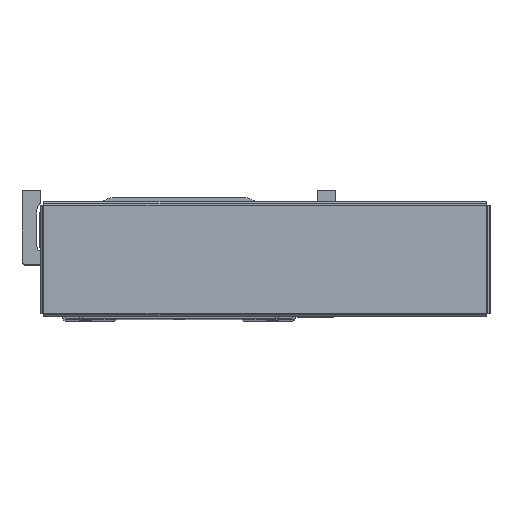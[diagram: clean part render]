
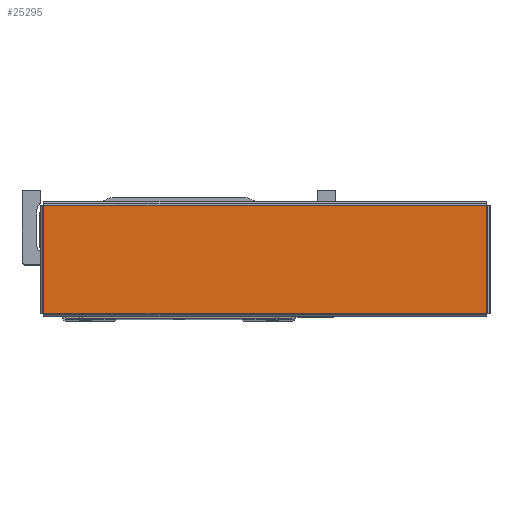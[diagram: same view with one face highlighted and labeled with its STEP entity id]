
A CAD part, top view. The second image highlights one B-rep face of the part: STEP entity #25295.
In plain terms, the highlighted planar face has unit normal (0, 0, 1) as drawn and (0, -1, 0) by its records, which use the part's own axes.
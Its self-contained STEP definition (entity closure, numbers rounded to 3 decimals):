
#8767 = FACE_OUTER_BOUND ( 'NONE', #25560, .T. ) ;
#10237 = AXIS2_PLACEMENT_3D ( 'NONE', #11778, #11780, #11776 ) ;
#11736 = PLANE ( 'NONE',  #10237 ) ;
#11776 = DIRECTION ( 'NONE',  ( 0., 0., 1. ) ) ;
#11778 = CARTESIAN_POINT ( 'NONE',  ( 0., -1.2, 0. ) ) ;
#11780 = DIRECTION ( 'NONE',  ( 0., 1., 0. ) ) ;
#14478 = CARTESIAN_POINT ( 'NONE',  ( 128.363, -1.2, 31.363 ) ) ;
#14486 = CARTESIAN_POINT ( 'NONE',  ( -128.363, -1.2, 31.363 ) ) ;
#14492 = CARTESIAN_POINT ( 'NONE',  ( -128.363, -1.2, -31.363 ) ) ;
#14499 = CARTESIAN_POINT ( 'NONE',  ( 128.363, -1.2, -31.363 ) ) ;
#23229 = VECTOR ( 'NONE', #42441, 1000. ) ;
#23309 = LINE ( 'NONE', #42483, #23229 ) ;
#23311 = VECTOR ( 'NONE', #42928, 1000. ) ;
#23324 = LINE ( 'NONE', #42908, #23340 ) ;
#23327 = VECTOR ( 'NONE', #42901, 1000. ) ;
#23340 = VECTOR ( 'NONE', #42870, 1000. ) ;
#23373 = LINE ( 'NONE', #42834, #23327 ) ;
#23378 = LINE ( 'NONE', #42860, #23311 ) ;
#25295 = ADVANCED_FACE ( 'NONE', ( #8767 ), #11736, .F. ) ;
#25560 = EDGE_LOOP ( 'NONE', ( #26685, #26737, #26694, #26731 ) ) ;
#26645 = VERTEX_POINT ( 'NONE', #14478 ) ;
#26648 = VERTEX_POINT ( 'NONE', #14486 ) ;
#26681 = VERTEX_POINT ( 'NONE', #14492 ) ;
#26682 = VERTEX_POINT ( 'NONE', #14499 ) ;
#26685 = ORIENTED_EDGE ( 'NONE', *, *, #31572, .T. ) ;
#26694 = ORIENTED_EDGE ( 'NONE', *, *, #31522, .T. ) ;
#26731 = ORIENTED_EDGE ( 'NONE', *, *, #31574, .T. ) ;
#26737 = ORIENTED_EDGE ( 'NONE', *, *, #31577, .T. ) ;
#31522 = EDGE_CURVE ( 'NONE', #26681, #26682, #23309, .T. ) ;
#31572 = EDGE_CURVE ( 'NONE', #26645, #26648, #23324, .T. ) ;
#31574 = EDGE_CURVE ( 'NONE', #26682, #26645, #23373, .T. ) ;
#31577 = EDGE_CURVE ( 'NONE', #26648, #26681, #23378, .T. ) ;
#42441 = DIRECTION ( 'NONE',  ( 1., 0., 0. ) ) ;
#42483 = CARTESIAN_POINT ( 'NONE',  ( -128.393, -1.2, -31.363 ) ) ;
#42834 = CARTESIAN_POINT ( 'NONE',  ( 128.363, -1.2, -31.393 ) ) ;
#42860 = CARTESIAN_POINT ( 'NONE',  ( -128.363, -1.2, 31.393 ) ) ;
#42870 = DIRECTION ( 'NONE',  ( -1., 0., 0. ) ) ;
#42901 = DIRECTION ( 'NONE',  ( 0., 0., 1. ) ) ;
#42908 = CARTESIAN_POINT ( 'NONE',  ( 128.393, -1.2, 31.363 ) ) ;
#42928 = DIRECTION ( 'NONE',  ( 0., 0., -1. ) ) ;
